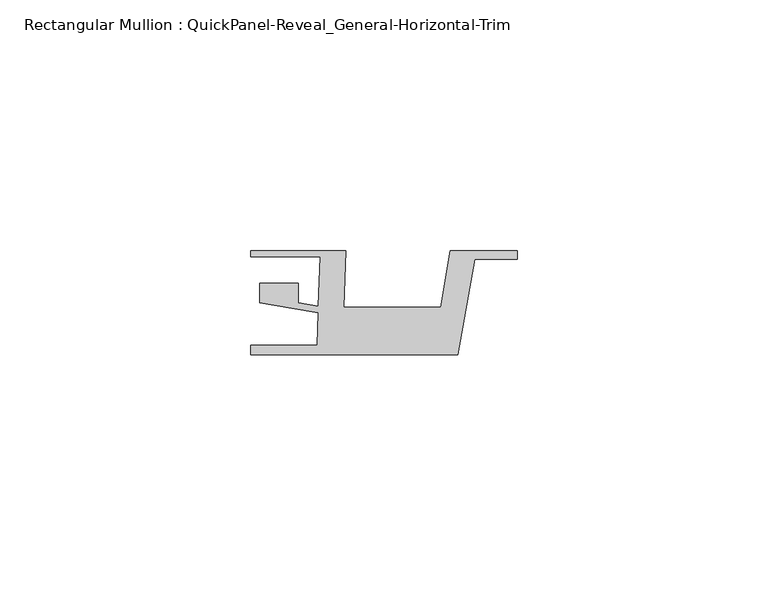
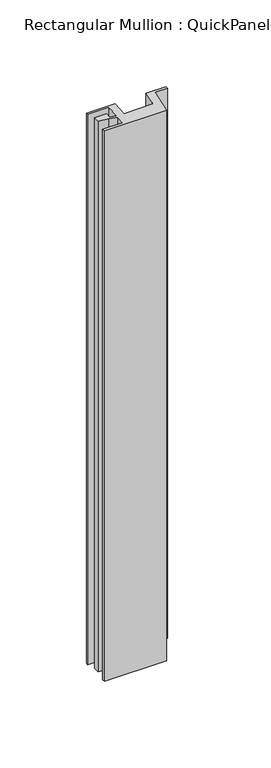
"""IFC4 building model written with IfcOpenShell, lengths in millimetres: member geometry, Rectangular Mullion : QuickPanel-Reveal_General-Horizontal-Trim."""

from ifc_helpers import new_model, si_unit, frame, origin, place, context, project, spatial, polyline, outline, extrude, source, transform, mapped, element, save


def rectangular_mullion_quickpanel_reveal_general_horizontal_74594d05(model_context):
    return source(origin(), model_context, "Body", "SweptSolid", [
        extrude(outline(polyline([(-53.1926881, -8.6293878), (-53.1926881, -6.6935423), (-39.9517754, -6.6935423), (-39.7249902, -0.1992641), (-44.9752711, 0.7008023), (-51.4106037, 1.8040245), (-51.4106037, 5.6493034), (-43.6658306, 5.6493034), (-43.6658306, 1.7648465), (-39.6802617, 1.0815922), (-39.3363347, 10.9303752), (-53.1926881, 10.9303752), (-53.1926881, 12.1803727), (-34.2095873, 12.1803727), (-34.6033563, 0.9043028), (-15.3127056, 0.9043028), (-13.3796258, 12.1803727), (0.0, 12.1803727), (0.0, 10.4985348), (-8.5254306, 10.4985348), (-11.8981995, -8.6293878), (-53.1926881, -8.6293878)])), frame((0.0, 0.0, -387.814328), z_axis=(0.0, 0.0, 1.0), x_axis=(1.0, 0.0, 0.0)), (0.0, 0.0, 1.0), 387.814328),
    ])


if __name__ == "__main__":
    model = new_model("IFC4")
    model_context = context("Model", 3, world=origin())
    ifc_project = project(units=[si_unit("LENGTHUNIT", "METRE", prefix="MILLI")], contexts=[model_context])
    site = spatial("IfcSite", under=ifc_project)
    building = spatial("IfcBuilding", under=site)
    placement = place(None, origin())
    rectangular_mullion_quickpanel_reveal_general_horizontal_shape = rectangular_mullion_quickpanel_reveal_general_horizontal_74594d05(model_context)
    element("IfcMember", 1, ObjectType="Rectangular Mullion : QuickPanel-Reveal_General-Horizontal-Trim", at=placement, inside=building, context=model_context, shape_type="MappedRepresentation", body=[
        mapped(rectangular_mullion_quickpanel_reveal_general_horizontal_shape, transform((0.0, 0.0, 0.0), x_axis=(1.0, 0.0, 0.0), y_axis=(0.0, 1.0, 0.0), z_axis=(0.0, 0.0, 1.0))),
    ])
    save(model, "model.ifc")
